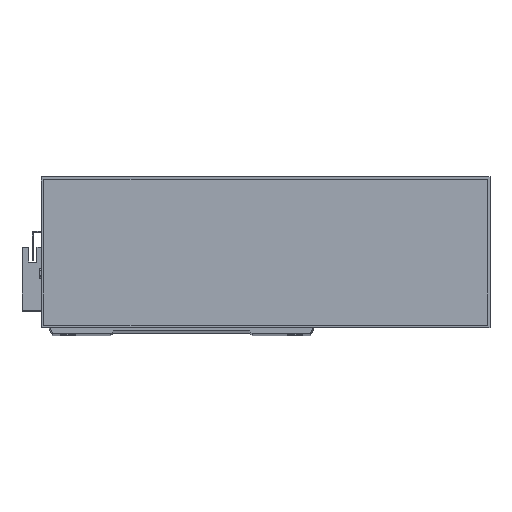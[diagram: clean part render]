
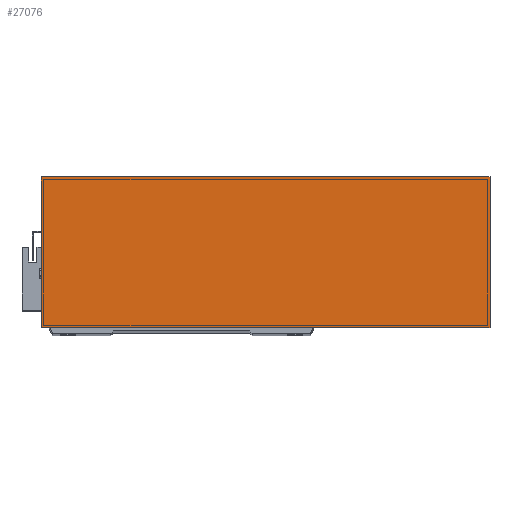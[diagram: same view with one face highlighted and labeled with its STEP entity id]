
A CAD part, top view. The second image highlights one B-rep face of the part: STEP entity #27076.
In plain terms, the highlighted planar face has unit normal (0, 0, 1).
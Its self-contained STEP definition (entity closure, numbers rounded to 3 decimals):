
#223 = EDGE_LOOP ( 'NONE', ( #18142, #22267, #16132, #4061 ) ) ;
#832 = VERTEX_POINT ( 'NONE', #24780 ) ;
#1565 = EDGE_CURVE ( 'NONE', #22077, #11271, #8293, .T. ) ;
#2310 = VECTOR ( 'NONE', #16485, 1000. ) ;
#4061 = ORIENTED_EDGE ( 'NONE', *, *, #13133, .T. ) ;
#4550 = DIRECTION ( 'NONE',  ( 0., 1., 0. ) ) ;
#6605 = FACE_OUTER_BOUND ( 'NONE', #223, .T. ) ;
#8293 = LINE ( 'NONE', #25372, #2310 ) ;
#9038 = CARTESIAN_POINT ( 'NONE',  ( 277., 0., 50. ) ) ;
#10631 = CARTESIAN_POINT ( 'NONE',  ( 0., 0., 50. ) ) ;
#11271 = VERTEX_POINT ( 'NONE', #20019 ) ;
#11313 = DIRECTION ( 'NONE',  ( -1., 0., 0. ) ) ;
#11520 = CARTESIAN_POINT ( 'NONE',  ( 0., 93., 50. ) ) ;
#12849 = DIRECTION ( 'NONE',  ( 0., 0., -1. ) ) ;
#13133 = EDGE_CURVE ( 'NONE', #832, #22077, #24520, .T. ) ;
#13576 = DIRECTION ( 'NONE',  ( 1., 0., 0. ) ) ;
#13852 = VECTOR ( 'NONE', #13576, 1000. ) ;
#13864 = VERTEX_POINT ( 'NONE', #18937 ) ;
#14208 = EDGE_CURVE ( 'NONE', #11271, #13864, #19663, .T. ) ;
#15798 = EDGE_CURVE ( 'NONE', #13864, #832, #19920, .T. ) ;
#16132 = ORIENTED_EDGE ( 'NONE', *, *, #15798, .T. ) ;
#16485 = DIRECTION ( 'NONE',  ( 0., -1., 0. ) ) ;
#18142 = ORIENTED_EDGE ( 'NONE', *, *, #1565, .T. ) ;
#18695 = VECTOR ( 'NONE', #11313, 1000. ) ;
#18937 = CARTESIAN_POINT ( 'NONE',  ( 277., 0., 50. ) ) ;
#19663 = LINE ( 'NONE', #20073, #13852 ) ;
#19920 = LINE ( 'NONE', #9038, #25749 ) ;
#20019 = CARTESIAN_POINT ( 'NONE',  ( 0., 0., 50. ) ) ;
#20073 = CARTESIAN_POINT ( 'NONE',  ( 0., 0., 50. ) ) ;
#22077 = VERTEX_POINT ( 'NONE', #11520 ) ;
#22267 = ORIENTED_EDGE ( 'NONE', *, *, #14208, .T. ) ;
#23761 = PLANE ( 'NONE',  #24414 ) ;
#24414 = AXIS2_PLACEMENT_3D ( 'NONE', #10631, #12849, #28196 ) ;
#24520 = LINE ( 'NONE', #26656, #18695 ) ;
#24780 = CARTESIAN_POINT ( 'NONE',  ( 277., 93., 50. ) ) ;
#25372 = CARTESIAN_POINT ( 'NONE',  ( 0., 0., 50. ) ) ;
#25749 = VECTOR ( 'NONE', #4550, 1000. ) ;
#26656 = CARTESIAN_POINT ( 'NONE',  ( 0., 93., 50. ) ) ;
#27076 = ADVANCED_FACE ( 'NONE', ( #6605 ), #23761, .F. ) ;
#28196 = DIRECTION ( 'NONE',  ( -1., 0., 0. ) ) ;
